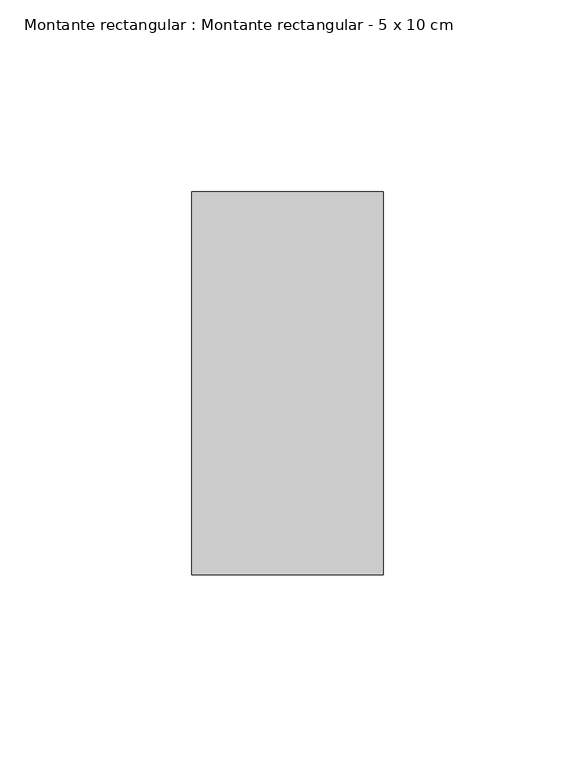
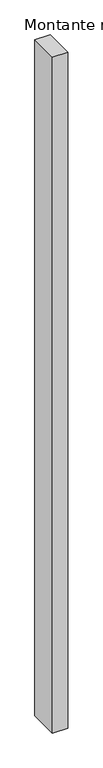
"""IFC4 building model written with IfcOpenShell, lengths in millimetres: member geometry, Montante rectangular : Montante rectangular - 5 x 10 cm."""

from ifc_helpers import new_model, si_unit, frame, origin, place, context, project, spatial, polyline, outline, extrude, source, transform, mapped, element, save


def montante_rectangular_montante_rectangular_5_x_10_cm_7f0eb0d8(model_context):
    return source(origin(), model_context, "Body", "SweptSolid", [
        extrude(outline(polyline([(0.0, 50.0), (0.0, -50.0), (-50.0, -50.0), (-50.0, 50.0), (0.0, 50.0)])), frame((0.0, 0.0, -2350.0), z_axis=(0.0, 0.0, 1.0), x_axis=(1.0, 0.0, 0.0)), (0.0, 0.0, 1.0), 2350.0),
    ])


if __name__ == "__main__":
    model = new_model("IFC4")
    model_context = context("Model", 3, world=origin())
    ifc_project = project(units=[si_unit("LENGTHUNIT", "METRE", prefix="MILLI")], contexts=[model_context])
    site = spatial("IfcSite", under=ifc_project)
    building = spatial("IfcBuilding", under=site)
    placement = place(None, origin())
    montante_rectangular_montante_rectangular_5_x_10_cm_shape = montante_rectangular_montante_rectangular_5_x_10_cm_7f0eb0d8(model_context)
    element("IfcMember", 1, ObjectType="Montante rectangular : Montante rectangular - 5 x 10 cm", at=placement, inside=building, context=model_context, shape_type="MappedRepresentation", body=[
        mapped(montante_rectangular_montante_rectangular_5_x_10_cm_shape, transform((0.0, 0.0, 0.0), x_axis=(1.0, 0.0, 0.0), y_axis=(0.0, 1.0, 0.0), z_axis=(0.0, 0.0, 1.0))),
    ])
    save(model, "model.ifc")
